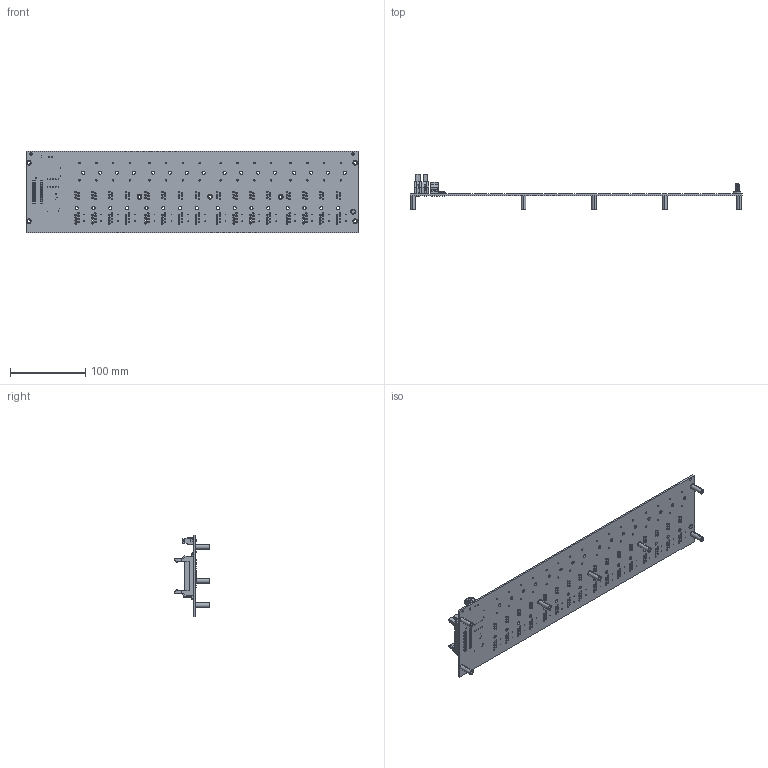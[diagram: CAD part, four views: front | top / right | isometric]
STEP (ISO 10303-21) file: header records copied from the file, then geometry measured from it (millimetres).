
FILE_DESCRIPTION (( 'STEP AP214' ), '1' );
FILE_NAME ('SCMVAS-PB16.STEP', '2017-03-29T17:35:58', ( '' ), ( '' ), 'SwSTEP 2.0', 'SolidWorks 2017', '' );
FILE_SCHEMA (( 'AUTOMOTIVE_DESIGN' ));
Length unit declared in the file: millimetre
Products named in the file (1): SCMVAS-PB16
Bounding box: 441.96 x 47.65 x 107.95 mm (x, y, z)
Volume: 13961.9 mm3; surface area: 120017.7 mm2
Topology: 54 solids, 55 shells, 3390 faces, 8724 edges, 5600 vertices
Faces by surface type: plane 1824, cylinder 1080, bspline 339, torus 78, cone 45, sphere 24
Entity records: 157717 total; most frequent: CARTESIAN_POINT 36330, ORIENTED_EDGE 17444, DIRECTION 16288, EDGE_CURVE 8722, LINE 5660, VECTOR 5660, VERTEX_POINT 5600, AXIS2_PLACEMENT_3D 5314
